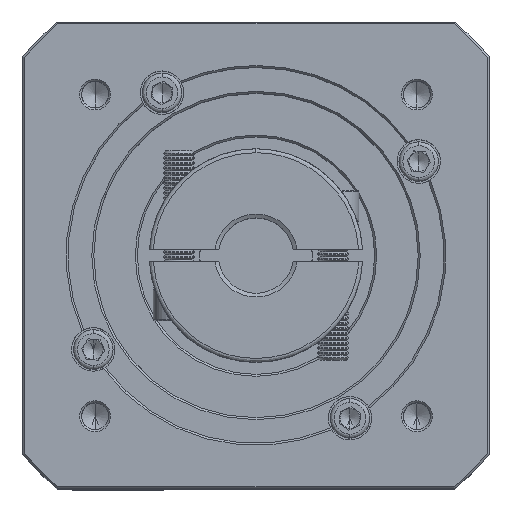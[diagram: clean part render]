
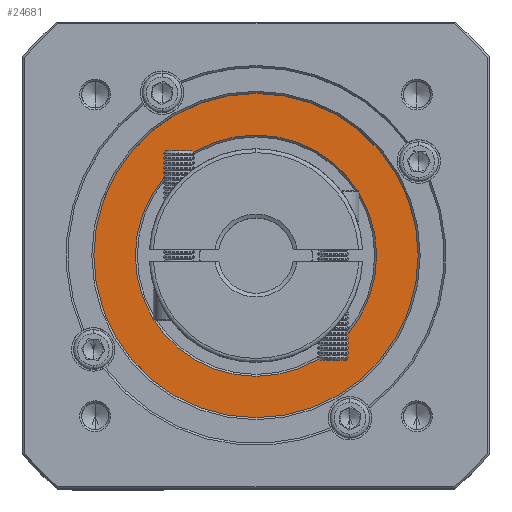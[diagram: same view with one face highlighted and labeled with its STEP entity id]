
A CAD part, top view. The second image highlights one B-rep face of the part: STEP entity #24681.
In plain terms, the highlighted planar face has unit normal (0, 0, 1).
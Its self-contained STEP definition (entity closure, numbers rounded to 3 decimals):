
#3718 = AXIS2_PLACEMENT_3D ( 'NONE', #44796, #75521, #14599 ) ;
#4845 = DIRECTION ( 'NONE',  ( 0., 0., 1. ) ) ;
#7748 = CIRCLE ( 'NONE', #123902, 30.5 ) ;
#9530 = AXIS2_PLACEMENT_3D ( 'NONE', #117350, #106507, #55258 ) ;
#9696 = CIRCLE ( 'NONE', #9530, 41. ) ;
#9783 = CARTESIAN_POINT ( 'NONE',  ( 61.536, 35.442, -35.926 ) ) ;
#10709 = VERTEX_POINT ( 'NONE', #128788 ) ;
#11602 = EDGE_CURVE ( 'NONE', #94078, #10709, #9696, .T. ) ;
#13299 = EDGE_CURVE ( 'NONE', #78820, #73712, #125271, .T. ) ;
#14319 = DIRECTION ( 'NONE',  ( 0., 1., 0. ) ) ;
#14599 = DIRECTION ( 'NONE',  ( 1., 0., 0. ) ) ;
#15575 = ORIENTED_EDGE ( 'NONE', *, *, #22394, .T. ) ;
#15705 = ORIENTED_EDGE ( 'NONE', *, *, #13299, .T. ) ;
#20766 = EDGE_LOOP ( 'NONE', ( #15575, #98071 ) ) ;
#22394 = EDGE_CURVE ( 'NONE', #10709, #94078, #83088, .T. ) ;
#24681 = ADVANCED_FACE ( 'NONE', ( #116898, #121668 ), #76125, .T. ) ;
#25392 = DIRECTION ( 'NONE',  ( 0., 0., -1. ) ) ;
#41938 = EDGE_CURVE ( 'NONE', #73712, #78820, #7748, .T. ) ;
#42509 = CARTESIAN_POINT ( 'NONE',  ( 31.036, 35.442, -35.926 ) ) ;
#44796 = CARTESIAN_POINT ( 'NONE',  ( 61.536, 35.442, -35.926 ) ) ;
#55258 = DIRECTION ( 'NONE',  ( 0., 1., 0. ) ) ;
#56002 = CARTESIAN_POINT ( 'NONE',  ( 61.536, 35.442, -35.926 ) ) ;
#63994 = AXIS2_PLACEMENT_3D ( 'NONE', #9783, #112812, #111462 ) ;
#71975 = CARTESIAN_POINT ( 'NONE',  ( 61.536, -5.558, -35.926 ) ) ;
#73712 = VERTEX_POINT ( 'NONE', #42509 ) ;
#75008 = EDGE_LOOP ( 'NONE', ( #15705, #75743 ) ) ;
#75521 = DIRECTION ( 'NONE',  ( 0., 0., -1. ) ) ;
#75743 = ORIENTED_EDGE ( 'NONE', *, *, #41938, .T. ) ;
#76125 = PLANE ( 'NONE',  #118991 ) ;
#78820 = VERTEX_POINT ( 'NONE', #116102 ) ;
#83088 = CIRCLE ( 'NONE', #63994, 41. ) ;
#94078 = VERTEX_POINT ( 'NONE', #71975 ) ;
#94756 = CARTESIAN_POINT ( 'NONE',  ( 61.536, 35.442, -35.926 ) ) ;
#97746 = DIRECTION ( 'NONE',  ( 1., 0., 0. ) ) ;
#98071 = ORIENTED_EDGE ( 'NONE', *, *, #11602, .T. ) ;
#106507 = DIRECTION ( 'NONE',  ( 0., 0., 1. ) ) ;
#111462 = DIRECTION ( 'NONE',  ( 0., 1., 0. ) ) ;
#112812 = DIRECTION ( 'NONE',  ( 0., 0., 1. ) ) ;
#116102 = CARTESIAN_POINT ( 'NONE',  ( 92.036, 35.442, -35.926 ) ) ;
#116898 = FACE_OUTER_BOUND ( 'NONE', #20766, .T. ) ;
#117350 = CARTESIAN_POINT ( 'NONE',  ( 61.536, 35.442, -35.926 ) ) ;
#118991 = AXIS2_PLACEMENT_3D ( 'NONE', #94756, #4845, #14319 ) ;
#121668 = FACE_BOUND ( 'NONE', #75008, .T. ) ;
#123902 = AXIS2_PLACEMENT_3D ( 'NONE', #56002, #25392, #97746 ) ;
#125271 = CIRCLE ( 'NONE', #3718, 30.5 ) ;
#128788 = CARTESIAN_POINT ( 'NONE',  ( 61.536, 76.442, -35.926 ) ) ;
